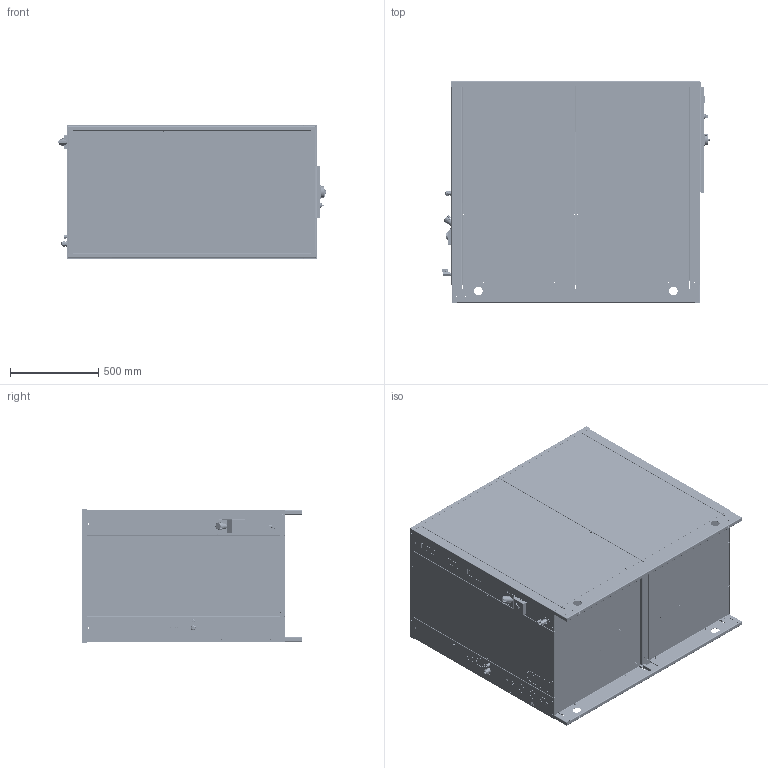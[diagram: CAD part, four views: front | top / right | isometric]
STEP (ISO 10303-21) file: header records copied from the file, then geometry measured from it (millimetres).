
FILE_DESCRIPTION (( 'STEP AP203' ), '1' );
FILE_NAME ('W-SCW_F3_REV_00.STEP', '2026-07-21T06:04:19', ( '' ), ( '' ), 'SwSTEP 2.0', 'SolidWorks 2023', '' );
FILE_SCHEMA (( 'CONFIG_CONTROL_DESIGN' ));
Products named in the file (41): VR-3F-00002_002; CR-QU-00040_000; CR-3F-00006_001B; CR-3F-00006_001A; VR-3F-00011_000; CR-3F-00005_002; CR-2D-00004_001; CR-3F-00006_001; VR-2F-00008_003; CR-3D-00010_001; FILETTO_RUBINETTO_VA-A5-00001; PG-16; VR-3F-00010_000; VR-2F-00010_000; PG 9_2_Nut-PA-Grey-19-19-22-Nelco; VR-2F-00007_004; W-SCW_F3_REV_00; VR-3F-00003_002; VR-2F-00005_003; QC_BASE_D2_D3-600X300X200; PG 9_Cable-Gland-1.209.0900.14-Nelco; SE-RR-00025_000; CR-3F-00008_001; CR-3F-00009_001; TAPPO 1P  FEM ; VR-2F-00011_000; SE-RP-00013; VA-A5-00001; CR-3F-00007_004; CR-3D-00005_000; IN-VI-00001; SELETTORE_NERO; CR-3D-00004_001; ING_TC_M5X25; CR-2F-00008_000; TE-EL-00018; RIVELOX M5; SEZIONATORE-GR_D2; VR-2F-00006_003; PG 9_1_Socket-1.209.0900.14-Nelco
Assembly tree (77 placements, depth 3):
  W-SCW_F3_REV_00
    VR-3F-00003_002
      VR-3F-00003_002
      RIVELOX M5  x32
    VR-2F-00005_003
    VR-2F-00006_003
    VR-2F-00007_004
    VR-2F-00008_003
    VR-2F-00010_000
    VR-2F-00011_000
    CR-3F-00008_001  x2
    CR-3F-00009_001
    CR-3F-00005_002
    VR-3F-00010_000
    CR-3F-00007_004
    VR-3F-00002_002  x3
    CR-3D-00004_001
    CR-3D-00005_000  x2
    CR-2D-00004_001  x2
    CR-3D-00010_001
    CR-2F-00008_000
    CR-3F-00006_001
      CR-3F-00006_001A
      CR-3F-00006_001B
    ING_TC_M5X25  x2
    VR-3F-00011_000
    QC_BASE_D2_D3-600X300X200
      CR-QU-00040_000
      SEZIONATORE-GR_D2
      SELETTORE_NERO
      TE-EL-00018
      SE-RR-00025_000
    PG 9_Cable-Gland-1.209.0900.14-Nelco
      PG 9_1_Socket-1.209.0900.14-Nelco
      PG 9_2_Nut-PA-Grey-19-19-22-Nelco
    PG-16
    IN-VI-00001
    TAPPO 1P  FEM 
    SE-RP-00013
    VA-A5-00001
    FILETTO_RUBINETTO_VA-A5-00001
Bounding box: 1516.79 x 1254.2 x 757 mm (x, y, z)
Volume: 24816844.6 mm3; surface area: 25806468 mm2
Topology: 180 solids, 273 shells, 8056 faces, 20730 edges, 13155 vertices
Faces by surface type: plane 4978, cylinder 2330, cone 308, bspline 284, torus 99, sphere 57
Entity records: 252177 total; most frequent: CARTESIAN_POINT 69874, ORIENTED_EDGE 36728, DIRECTION 35384, EDGE_CURVE 18584, LINE 12674, VECTOR 12674, VERTEX_POINT 11861, AXIS2_PLACEMENT_3D 11355
